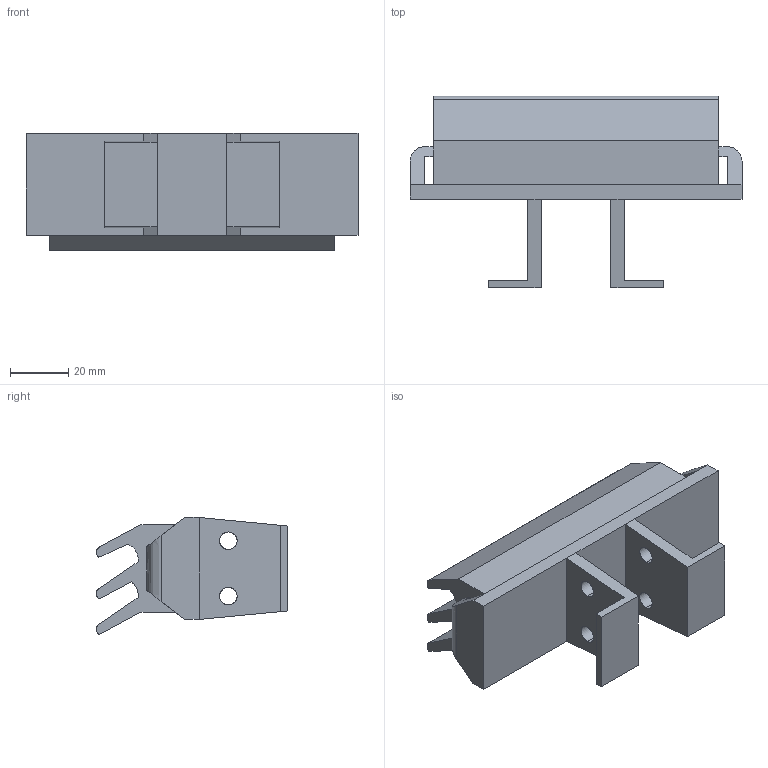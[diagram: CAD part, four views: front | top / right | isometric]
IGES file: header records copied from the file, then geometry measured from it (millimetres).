
Start section: SolidWorks IGES file using analytic representation for surfaces
Global section: file name: C:\Documents and Settings\URETIM3\Desktop\katalog 3 boyutlar tolgay\yeni katalog tolgay\D kataloðu\863 3 týrnaklý kauçuk bant\863 G00 114.IGS; native system: SolidWorks 2006 by SolidWorks Corporation; preprocessor: SolidWorks 2006 by SolidWorks Corporation; author: URETIM3; date: 061115.155745; units: millimetre
Bounding box: 114 x 65.69 x 40.18 mm (x, y, z)
Surface area: 29658.8 mm2 (no closed solid volume)
Topology: 0 solids, 0 shells, 57 faces, 682 edges, 682 vertices
Faces by surface type: bspline 42, revolution 15
